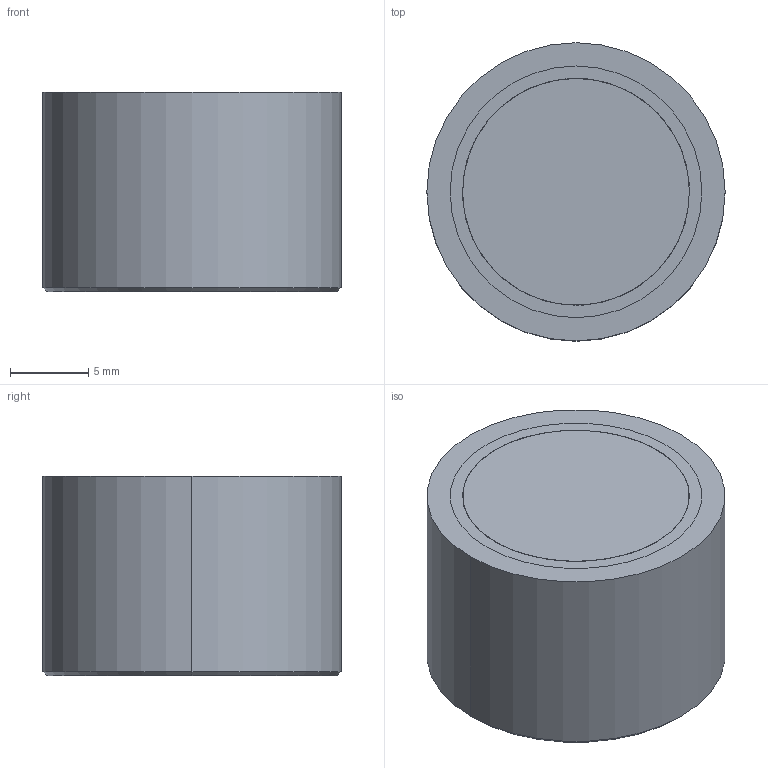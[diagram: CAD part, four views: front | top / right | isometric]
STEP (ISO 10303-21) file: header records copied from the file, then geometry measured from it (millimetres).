
FILE_DESCRIPTION (( 'STEP AP203' ), '1' );
FILE_NAME ('R750.STEP', '2018-08-17T15:51:49', ( '' ), ( '' ), 'SwSTEP 2.0', 'SolidWorks 2015', '' );
FILE_SCHEMA (( 'CONFIG_CONTROL_DESIGN' ));
Length unit declared in the file: inch
Products named in the file (1): R750
Bounding box: 19.01 x 19.01 x 12.7 mm (x, y, z)
Volume: 3550.2 mm3; surface area: 3250.2 mm2
Topology: 3 solids, 3 shells, 25 faces, 48 edges, 30 vertices
Faces by surface type: cylinder 12, plane 7, cone 6
Entity records: 727 total; most frequent: DIRECTION 130, CARTESIAN_POINT 104, ORIENTED_EDGE 96, AXIS2_PLACEMENT_3D 56, EDGE_CURVE 48, CIRCLE 30, EDGE_LOOP 30, VERTEX_POINT 30
